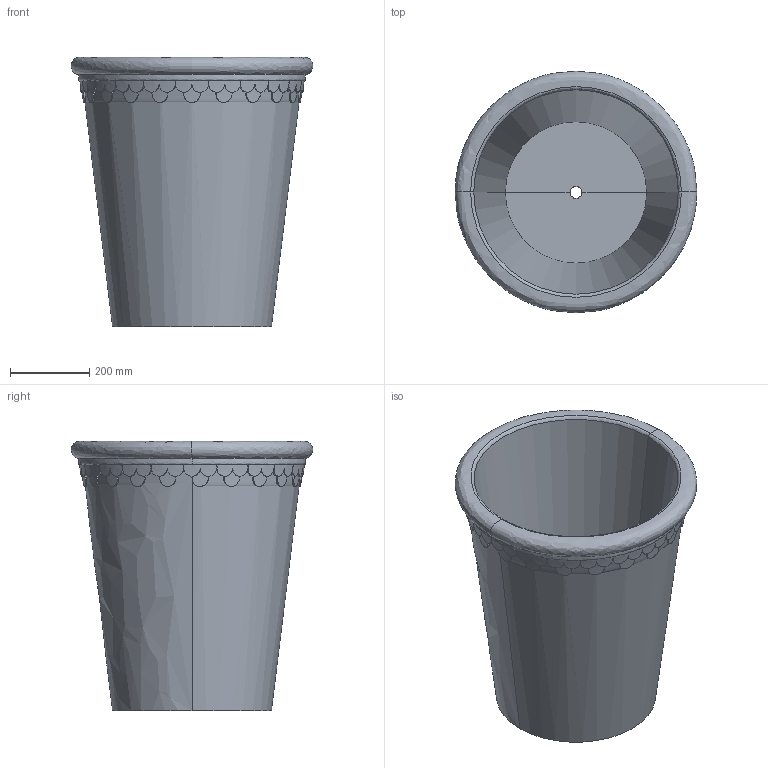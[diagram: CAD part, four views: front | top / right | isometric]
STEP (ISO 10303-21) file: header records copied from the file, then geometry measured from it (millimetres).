
FILE_DESCRIPTION(/* description */ (''),/* implementation_level */ '2;1');
FILE_NAME(/* name */ 'KBH60',/* time_stamp */ '2026-04-30T08:46:42+02:00',/* author */ (''),/* organization */ (''),/* preprocessor_version */ 'ST-DEVELOPER v19.2',/* originating_system */ 'Rhino 8.30',/* authorisation */ '');
FILE_SCHEMA (('CONFIG_CONTROL_DESIGN'));
Length unit declared in the file: millimetre
Products named in the file (1): Document
Bounding box: 609.94 x 610 x 680 mm (x, y, z)
Volume: 29286058 mm3; surface area: 2288718.5 mm2
Topology: 1 solids, 1 shells, 163 faces, 477 edges, 314 vertices
Faces by surface type: bspline 157, plane 4, cylinder 2
Entity records: 73219 total; most frequent: CARTESIAN_POINT 70116, ORIENTED_EDGE 954, EDGE_CURVE 477, B_SPLINE_CURVE_WITH_KNOTS 427, VERTEX_POINT 314, ADVANCED_FACE 163, FACE_OUTER_BOUND 163, EDGE_LOOP 163
